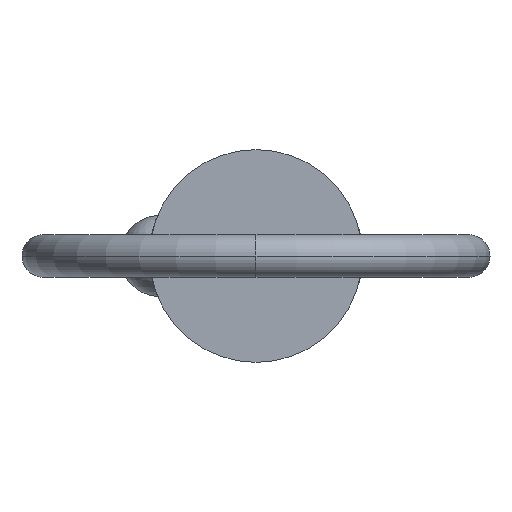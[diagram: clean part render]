
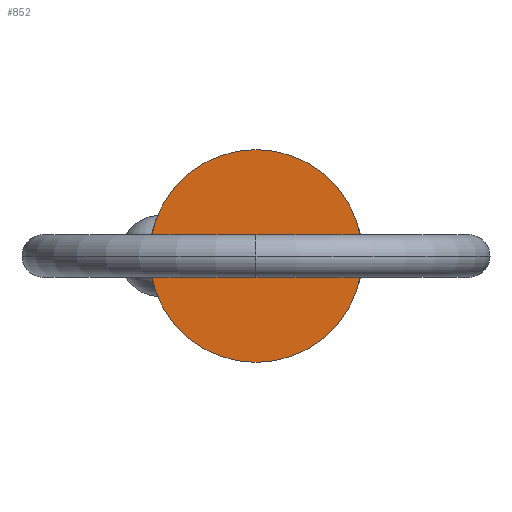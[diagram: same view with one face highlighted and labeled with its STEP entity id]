
A CAD part, left-side view. The second image highlights one B-rep face of the part: STEP entity #852.
In plain terms, the highlighted planar face has unit normal (-1, 0, 0).
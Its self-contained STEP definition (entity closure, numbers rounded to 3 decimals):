
#41 = DIRECTION ( 'NONE',  ( 0., 0., 1. ) ) ;
#53 = CIRCLE ( 'NONE', #586, 9.525 ) ;
#113 = PLANE ( 'NONE',  #432 ) ;
#167 = FACE_OUTER_BOUND ( 'NONE', #840, .T. ) ;
#179 = DIRECTION ( 'NONE',  ( 0., 0., -1. ) ) ;
#193 = CARTESIAN_POINT ( 'NONE',  ( 0., 0., 0. ) ) ;
#246 = CARTESIAN_POINT ( 'NONE',  ( 0., 0., 0. ) ) ;
#248 = DIRECTION ( 'NONE',  ( -1., 0., 0. ) ) ;
#255 = CARTESIAN_POINT ( 'NONE',  ( 0., 0., 0. ) ) ;
#310 = DIRECTION ( 'NONE',  ( 1., 0., 0. ) ) ;
#323 = VERTEX_POINT ( 'NONE', #500 ) ;
#369 = ORIENTED_EDGE ( 'NONE', *, *, #448, .F. ) ;
#432 = AXIS2_PLACEMENT_3D ( 'NONE', #255, #248, #41 ) ;
#435 = VERTEX_POINT ( 'NONE', #512 ) ;
#448 = EDGE_CURVE ( 'NONE', #323, #435, #850, .T. ) ;
#453 = DIRECTION ( 'NONE',  ( 0., 0., -1. ) ) ;
#463 = AXIS2_PLACEMENT_3D ( 'NONE', #246, #310, #453 ) ;
#500 = CARTESIAN_POINT ( 'NONE',  ( 0., 0., 9.525 ) ) ;
#512 = CARTESIAN_POINT ( 'NONE',  ( 0., 0., -9.525 ) ) ;
#564 = EDGE_CURVE ( 'NONE', #435, #323, #53, .T. ) ;
#586 = AXIS2_PLACEMENT_3D ( 'NONE', #193, #833, #179 ) ;
#808 = ORIENTED_EDGE ( 'NONE', *, *, #564, .F. ) ;
#833 = DIRECTION ( 'NONE',  ( 1., 0., 0. ) ) ;
#840 = EDGE_LOOP ( 'NONE', ( #808, #369 ) ) ;
#850 = CIRCLE ( 'NONE', #463, 9.525 ) ;
#852 = ADVANCED_FACE ( 'NONE', ( #167 ), #113, .T. ) ;
